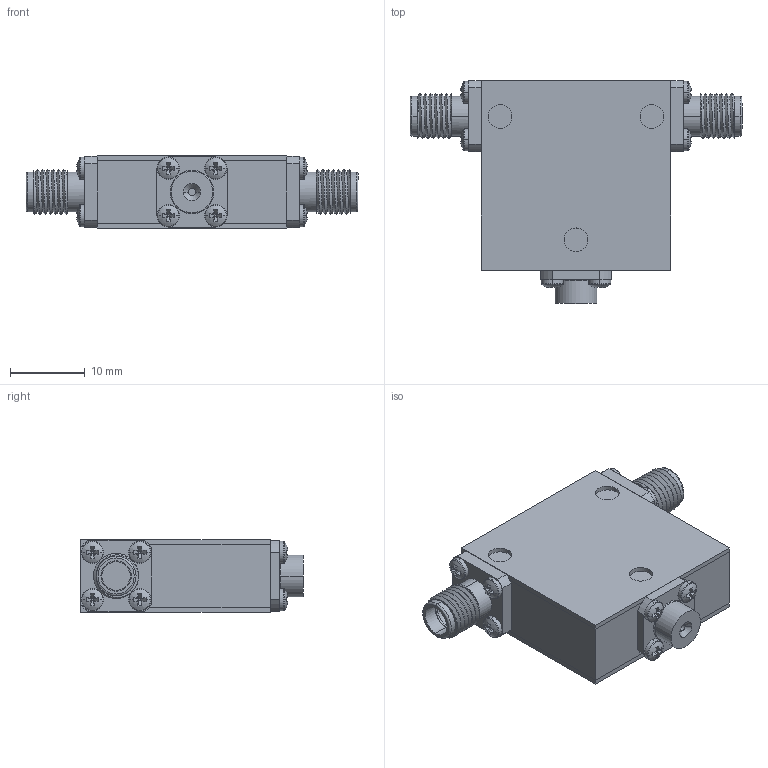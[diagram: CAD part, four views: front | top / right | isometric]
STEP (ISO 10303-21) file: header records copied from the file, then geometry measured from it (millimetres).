
FILE_DESCRIPTION (( 'STEP AP214' ), '1' );
FILE_NAME ('Package 9 Iso FF.step', '2021-12-01T21:02:42', ( '' ), ( '' ), 'SwSTEP 2.0', 'SolidWorks 2016', '' );
FILE_SCHEMA (( 'AUTOMOTIVE_DESIGN' ));
Length unit declared in the file: inch
Products named in the file (6): Package 9 Iso FF; Delta SMA-Female 0.375 flange Threaded; Package 9; pan cross head_ai_CR-PHMS 0.06-80x0.125x0.125-N; 0.375 flange; Package Size 9
Assembly tree (17 placements, depth 2):
  Package 9 Iso FF
    Package Size 9
    Package 9
    0.375 flange
    Delta SMA-Female 0.375 flange Threaded  x2
    pan cross head_ai_CR-PHMS 0.06-80x0.125x0.125-N  x12
Bounding box: 44.45 x 29.84 x 9.65 mm (x, y, z)
Volume: 6882.3 mm3; surface area: 6969.5 mm2
Topology: 17 solids, 17 shells, 414 faces, 942 edges, 582 vertices
Faces by surface type: plane 228, cylinder 122, torus 30, sphere 24, bspline 6, cone 4
Entity records: 4765 total; most frequent: CARTESIAN_POINT 1369, DIRECTION 717, ORIENTED_EDGE 594, EDGE_CURVE 297, AXIS2_PLACEMENT_3D 289, VERTEX_POINT 191, EDGE_LOOP 160, CIRCLE 150
